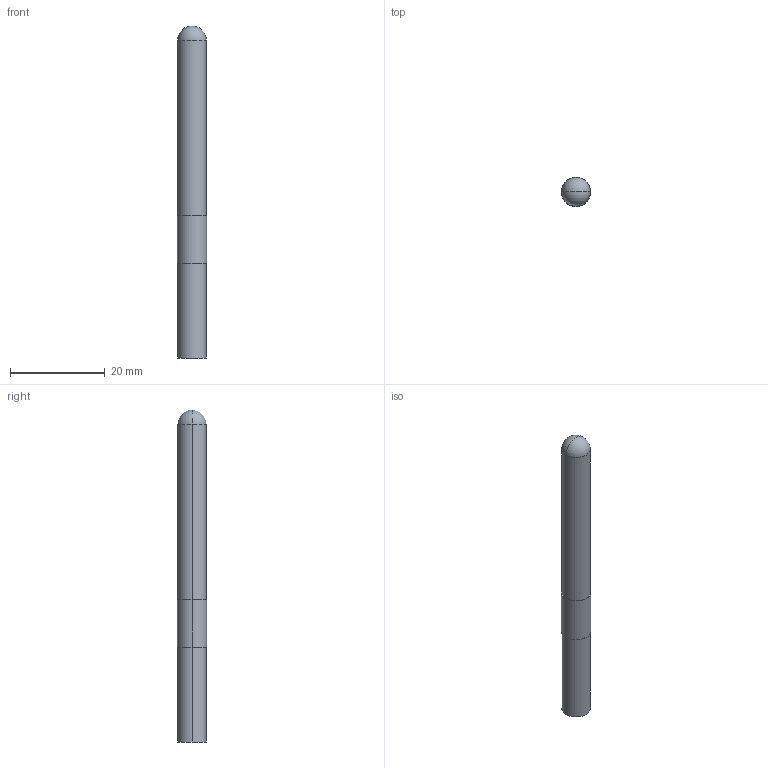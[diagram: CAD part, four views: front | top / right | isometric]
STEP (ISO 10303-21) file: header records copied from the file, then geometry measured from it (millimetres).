
FILE_DESCRIPTION (( 'STEP AP203' ), '1' );
FILE_NAME ('HTF50-PT1000-PVC-2.STEP', '2019-10-08T11:51:50', ( '' ), ( '' ), 'SwSTEP 2.0', 'SolidWorks 2016', '' );
FILE_SCHEMA (( 'CONFIG_CONTROL_DESIGN' ));
Length unit declared in the file: millimetre
Products named in the file (1): HTF50-PT1000-PVC-2
Bounding box: 6.2 x 6.2 x 70 mm (x, y, z)
Volume: 1970.1 mm3; surface area: 1357.9 mm2
Topology: 1 solids, 1 shells, 11 faces, 24 edges, 15 vertices
Faces by surface type: cylinder 6, plane 3, sphere 2
Entity records: 357 total; most frequent: DIRECTION 58, CARTESIAN_POINT 45, ORIENTED_EDGE 40, AXIS2_PLACEMENT_3D 26, EDGE_CURVE 20, CIRCLE 14, EDGE_LOOP 13, VERTEX_POINT 13
